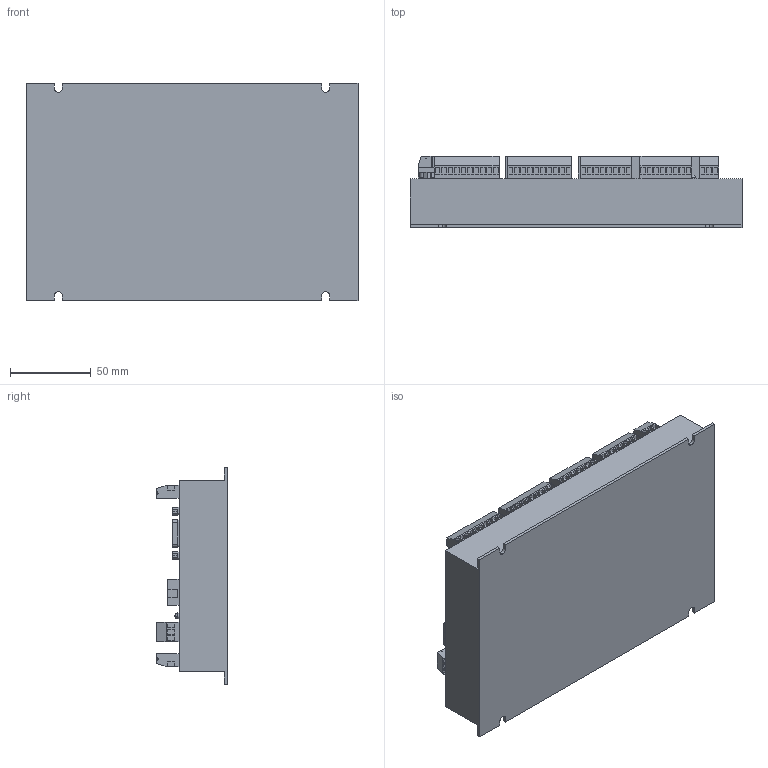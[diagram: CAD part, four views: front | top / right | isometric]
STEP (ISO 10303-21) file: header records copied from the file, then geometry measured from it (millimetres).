
FILE_DESCRIPTION (( 'STEP AP214' ), '1' );
FILE_NAME ('ECI1000炵蹈.STEP', '2018-08-23T02:59:12', ( 'Microsoft' ), ( ' ' ), 'SwSTEP 2.0', 'SolidWorks 2014', '' );
FILE_SCHEMA (( 'AUTOMOTIVE_DESIGN' ));
Length unit declared in the file: millimetre
Products named in the file (9): 傷赽-苤-8; 厙諳-傻; 三连灯; 腑; 傷赽-苤-3; 傷赽-苤-10; 9渀-2齬-鼠芛; ECI1000-俋褲; ECI1000炵蹈
Assembly tree (17 placements, depth 3):
  ECI1000炵蹈
    ECI1000-俋褲
    9渀-2齬-鼠芛
    傷赽-苤-10  x6
    傷赽-苤-3  x2
    三连灯
      腑  x3
    厙諳-傻
    傷赽-苤-8  x2
Bounding box: 205 x 44 x 134 mm (x, y, z)
Volume: 764619.9 mm3; surface area: 97033.9 mm2
Topology: 18 solids, 18 shells, 1182 faces, 2916 edges, 1941 vertices
Faces by surface type: plane 968, cylinder 208, sphere 6
Entity records: 13180 total; most frequent: DIRECTION 2027, CARTESIAN_POINT 2000, ORIENTED_EDGE 1906, EDGE_CURVE 953, VECTOR 703, LINE 703, AXIS2_PLACEMENT_3D 662, VERTEX_POINT 635
